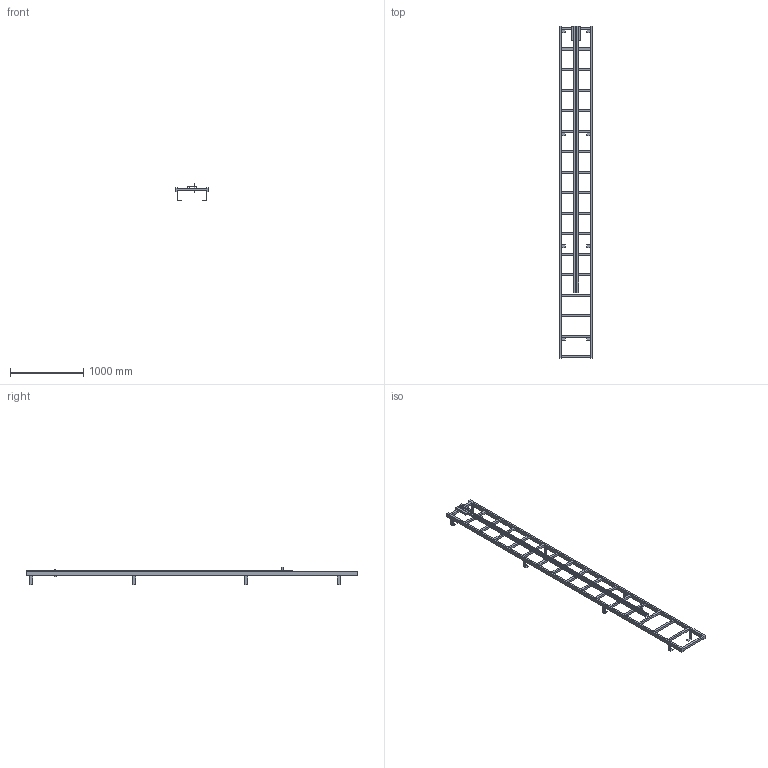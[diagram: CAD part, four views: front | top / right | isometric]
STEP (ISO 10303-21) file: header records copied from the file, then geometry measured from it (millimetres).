
FILE_DESCRIPTION((''),'2;1');
FILE_NAME('52330148','2024-12-05T08:41:50',('wep'),('HUBER SE'),'CREO PARAMETRIC BY PTC INC, 2022162','CREO PARAMETRIC BY PTC INC, 2022162','');
FILE_SCHEMA(('AUTOMOTIVE_DESIGN { 1 0 10303 214 1 1 1 1 }'));
Length unit declared in the file: millimetre
Products named in the file (1): 52330148
Bounding box: 450 x 4530 x 239 mm (x, y, z)
Volume: 19695756 mm3; surface area: 3402632.9 mm2
Topology: 2 solids, 2 shells, 296 faces, 858 edges, 562 vertices
Faces by surface type: plane 296
Entity records: 10245 total; most frequent: CARTESIAN_POINT 1718, ORIENTED_EDGE 1716, DIRECTION 1450, VECTOR 858, LINE 858, EDGE_CURVE 858, VERTEX_POINT 562, EDGE_LOOP 380
